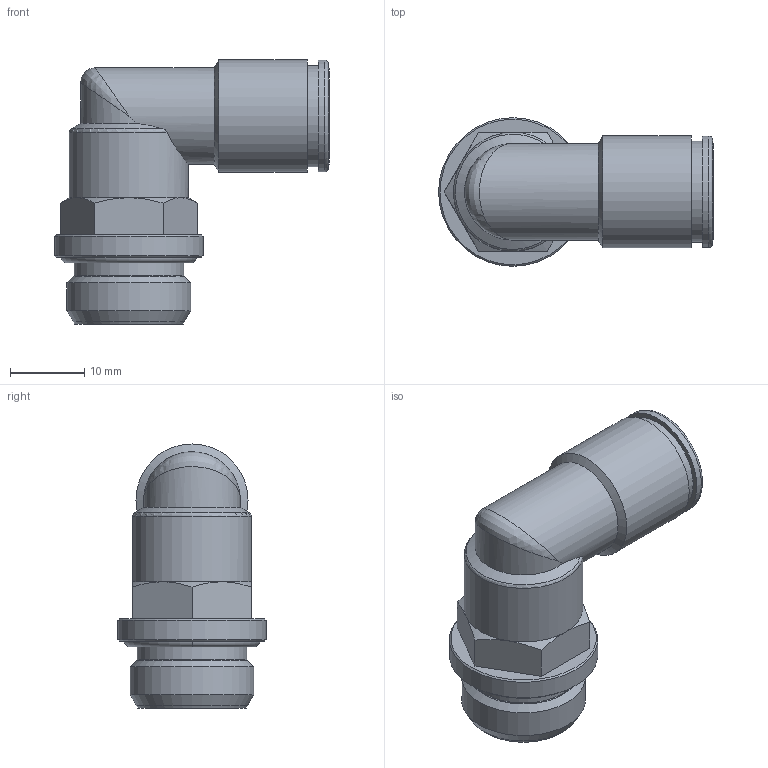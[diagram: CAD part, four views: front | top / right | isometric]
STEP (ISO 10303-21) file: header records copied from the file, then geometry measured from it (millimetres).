
FILE_DESCRIPTION(('Bauteilbeschreibung','HiCAD-Model','HiCAD-STEP-TRANSLATION','Bauteilbeschreibung'),'2;1');
FILE_NAME('B:/ABGLEICH/ZEICHNUNGEN/STEP FÜR INTERNET/STEP/202209_IPSO_022_10_3-8.STP','2011-09-16T13:59:40+00:00',('Konstrukteur'),('Konstrukteur Firma GmbH'),' HiCAD neXt 2008, Step 3.1.1401.2J ','HiCAD neXt 2008','confidential');
FILE_SCHEMA(('AUTOMOTIVE_DESIGN { 1 2 10303 214 0 1 1 1 }'));
Length unit declared in the file: millimetre
Products named in the file (7): A02209_IPSO_022_10_3_8; OR 14X1_78; A14629_GEW_1_4_3_8; A146290GEW01040308; G 3_8; DR10_N; R202208_N
Assembly tree (6 placements, depth 3):
  A02209_IPSO_022_10_3_8
    OR 14X1_78
    A14629_GEW_1_4_3_8
    A146290GEW01040308
      G 3_8
    DR10_N
    R202208_N
Bounding box: 37 x 20 x 35.55 mm (x, y, z)
Volume: 5389.7 mm3; surface area: 7263.3 mm2
Topology: 5 solids, 5 shells, 81 faces, 177 edges, 106 vertices
Faces by surface type: cone 28, cylinder 24, plane 20, torus 8, bspline 1
Full cylindrical faces by diameter (mm): 8 x2, 10.2 x2, 11 x1, 12.2 x2, 12.3 x1, 13 x2, 13.5 x2, 13.6 x1, 13.7 x1, 14.75 x1, 14.95 x2, 15 x1, 15.1 x1, 16 x1, 16.662 x1, 20 x1
Entity records: 3565 total; most frequent: CARTESIAN_POINT 1405, DIRECTION 352, ORIENTED_EDGE 228, AXIS2_PLACEMENT_3D 169, EDGE_LOOP 139, EDGE_CURVE 114, COLOUR_RGB 100, PRESENTATION_STYLE_ASSIGNMENT 100
